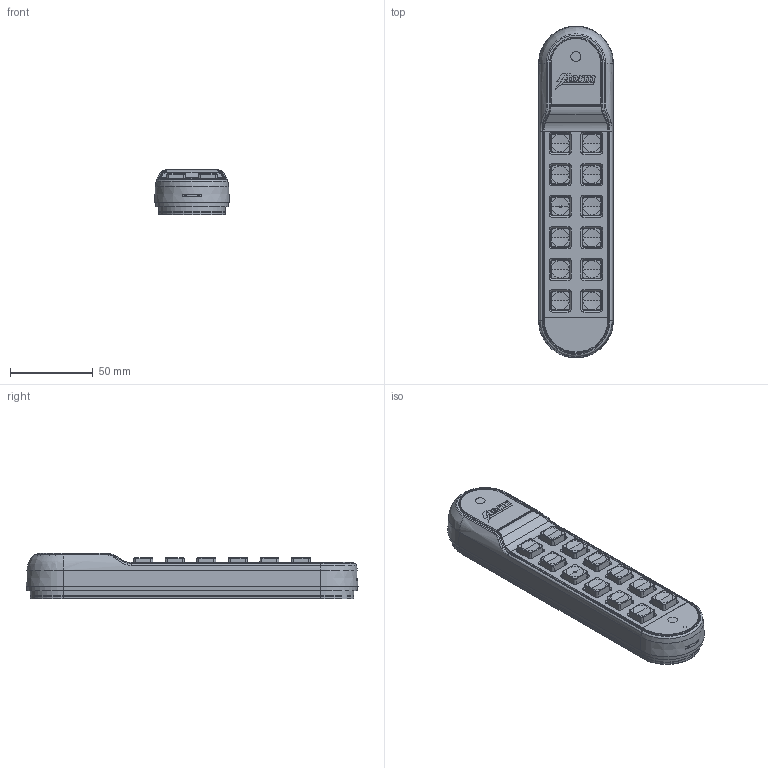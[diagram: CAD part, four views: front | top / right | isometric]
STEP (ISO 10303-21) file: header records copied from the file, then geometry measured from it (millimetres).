
FILE_DESCRIPTION (( 'STEP AP214' ), '1' );
FILE_NAME ('DS66-2W20~1.STEP', '2020-11-26T10:44:24', ( '' ), ( '' ), 'SwSTEP 2.0', 'SolidWorks 2018', '' );
FILE_SCHEMA (( 'AUTOMOTIVE_DESIGN' ));
Length unit declared in the file: millimetre
Products named in the file (13): 129-12-82~7; 129-12-82-INSERT~1; DS66-2W20~1; 110-90-91L~1; 129-LAB-02~3; 129-00-21-MCD~2; 129-12-82~9; 000-SEAL-21~1_Formed o ring; 110-90-91A~1; 156-00-15~1; 000-LAB-25~1; 129-LAB-01~4; 129-00-14~3
Assembly tree (22 placements, depth 3):
  DS66-2W20~1
    129-12-82~9
      129-12-82~7
      129-12-82-INSERT~1
    129-00-21-MCD~2
    129-LAB-01~4
    129-LAB-02~3
    000-SEAL-21~1_Formed o ring
    129-00-14~3
    110-90-91A~1  x11
    000-LAB-25~1
    110-90-91L~1
    156-00-15~1
Bounding box: 45.15 x 200.05 x 27.47 mm (x, y, z)
Volume: 93066.2 mm3; surface area: 127796 mm2
Topology: 25 solids, 25 shells, 3310 faces, 8543 edges, 5388 vertices
Faces by surface type: plane 1257, cone 799, torus 550, cylinder 405, bspline 215, sphere 84
Entity records: 71074 total; most frequent: CARTESIAN_POINT 20256, ORIENTED_EDGE 10486, DIRECTION 9518, EDGE_CURVE 5243, VERTEX_POINT 3388, AXIS2_PLACEMENT_3D 3365, VECTOR 2788, LINE 2788
